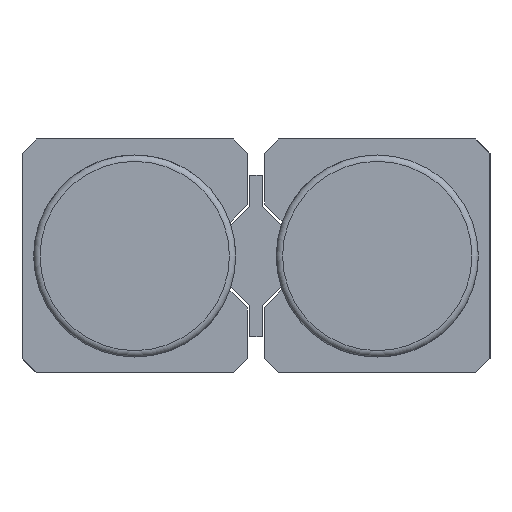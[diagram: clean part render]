
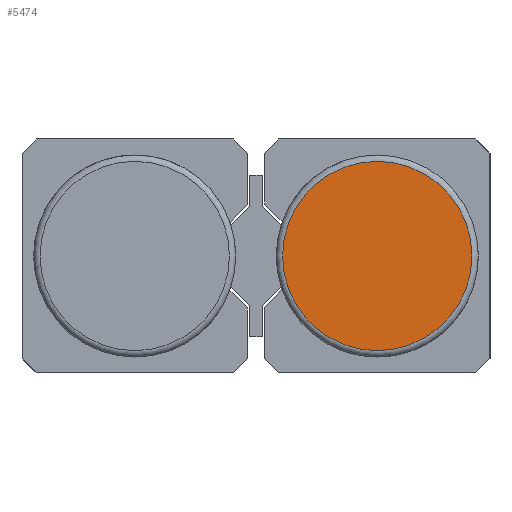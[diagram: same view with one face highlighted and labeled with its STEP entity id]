
A CAD part, left-side view. The second image highlights one B-rep face of the part: STEP entity #5474.
In plain terms, the highlighted planar face has unit normal (-1, 0, 0).
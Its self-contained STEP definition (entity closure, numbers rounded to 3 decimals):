
#366=CIRCLE('',#7127,4.45);
#687=ORIENTED_EDGE('',*,*,#2383,.T.);
#2383=EDGE_CURVE('',#3243,#3243,#366,.T.);
#3243=VERTEX_POINT('',#9407);
#4691=EDGE_LOOP('',(#687));
#5005=FACE_BOUND('',#4691,.T.);
#5293=PLANE('',#7128);
#5474=ADVANCED_FACE('',(#5005),#5293,.F.);
#7127=AXIS2_PLACEMENT_3D('',#9406,#7803,#7804);
#7128=AXIS2_PLACEMENT_3D('',#9408,#7805,#7806);
#7803=DIRECTION('',(-1.,0.,0.));
#7804=DIRECTION('',(0.,0.,1.));
#7805=DIRECTION('',(1.,0.,0.));
#7806=DIRECTION('',(0.,0.,-1.));
#9406=CARTESIAN_POINT('',(0.,-5.7,0.));
#9407=CARTESIAN_POINT('',(0.,-5.7,4.45));
#9408=CARTESIAN_POINT('',(0.,-10.15,0.));
